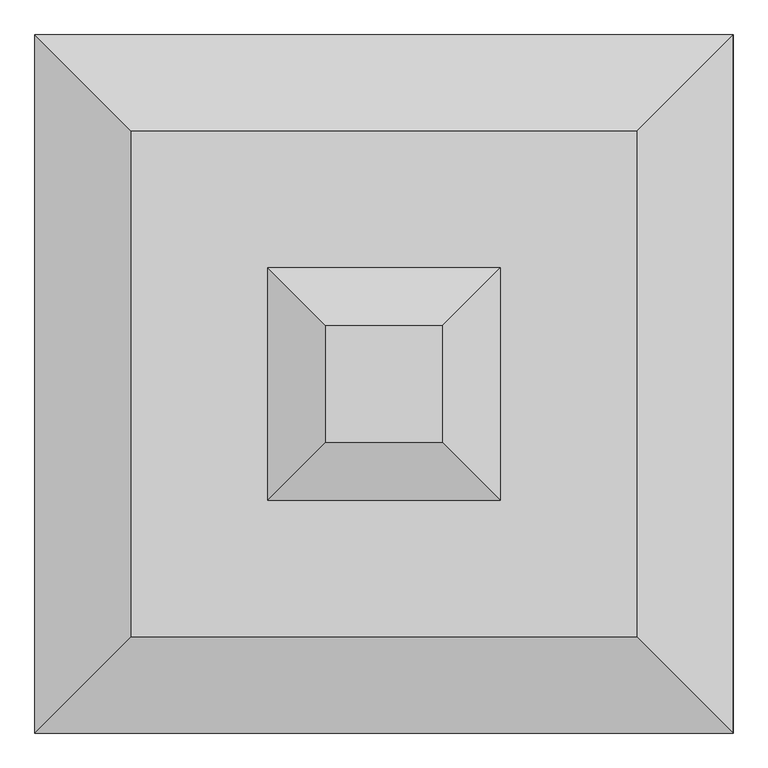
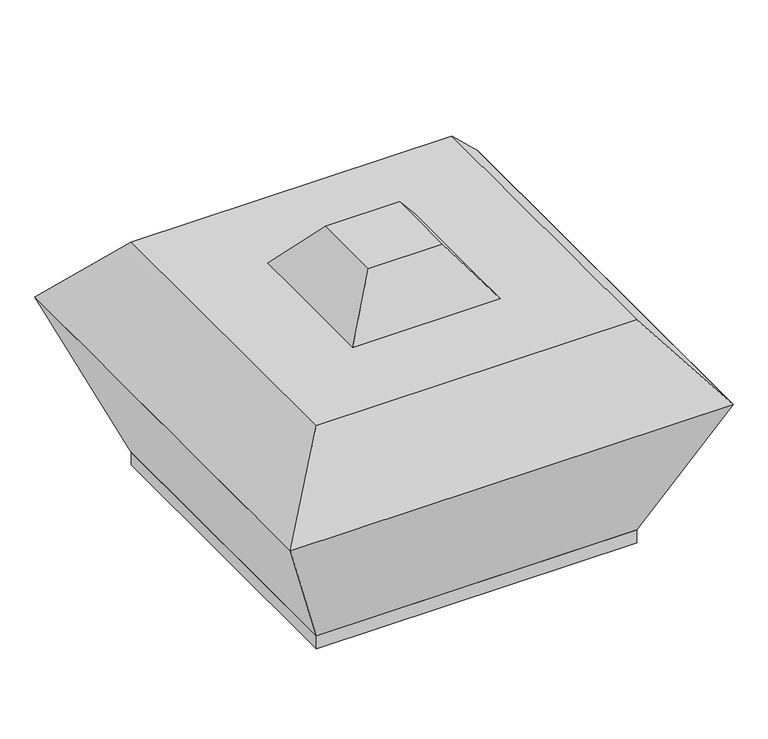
"""IFC4 building model written with IfcOpenShell, lengths in millimetres: proxy geometry."""

import ifcopenshell
import ifcopenshell.guid

model = None  # the IFC model being written
_history = None  # IfcOwnerHistory: only IFC2X3 demands one
_inside = {}  # id of a spatial element -> (the spatial element, [elements in it])
_under = {}  # id of a project, library or spatial element -> (it, [spatial elements below it])
_declared = {}  # id of a project -> (the project, [libraries it declares])
_typed = {}  # id of a type object -> (the type object, [elements of that type])
_made_of = {}  # id of a material, layer set ... -> (it, [elements and type objects made of it])


def new_model(schema):
    """Start an empty IFC model of exactly this schema.

    Asked for "IFC4X3", IfcOpenShell would pick the latest addendum, in which some entities
    have other attributes; the version numbers below select the first issue.
    IFC2X3 requires an IfcOwnerHistory on every rooted entity: one is made here for all.
    """
    global model, _history
    if schema == "IFC4X3":
        model = ifcopenshell.file(schema_version=(4, 3, 0, 0))
    else:
        model = ifcopenshell.file(schema=schema)
    _inside.clear()
    _under.clear()
    _declared.clear()
    _typed.clear()
    _made_of.clear()
    _history = None
    if model.schema == "IFC2X3":
        org = make("IfcOrganization", Name="unknown")
        user = make(
            "IfcPersonAndOrganization",
            ThePerson=make("IfcPerson", FamilyName="unknown"),
            TheOrganization=org,
        )
        app = make(
            "IfcApplication",
            ApplicationDeveloper=org,
            Version="unknown",
            ApplicationFullName="unknown",
            ApplicationIdentifier="unknown",
        )
        _history = make(
            "IfcOwnerHistory",
            OwningUser=user,
            OwningApplication=app,
            ChangeAction="ADDED",
            CreationDate=0,
        )
    return model


def make(cls, **values):
    """One entity of the class cls with the attributes given. An attribute that is None is left unset."""
    return model.create_entity(
        cls, **{name: value for name, value in values.items() if value is not None}
    )


def rooted(cls, **values):
    """An entity with a GlobalId (a new one), such as an element, a storey or a relation."""
    return make(cls, GlobalId=ifcopenshell.guid.new(), OwnerHistory=_history, **values)


def si_unit(unit_type, name, prefix=None):
    """IfcSIUnit, for example si_unit("LENGTHUNIT", "METRE", prefix="MILLI")."""
    return make("IfcSIUnit", UnitType=unit_type, Prefix=prefix, Name=name)


def assignment(units):
    """IfcUnitAssignment: the units of a project."""
    return None if units is None else make("IfcUnitAssignment", Units=units)


def point(xyz):
    """IfcCartesianPoint."""
    return None if xyz is None else make("IfcCartesianPoint", Coordinates=xyz)


def direction(xyz):
    """IfcDirection."""
    return None if xyz is None else make("IfcDirection", DirectionRatios=xyz)


def frame(location, z_axis=None, x_axis=None):
    """IfcAxis2Placement3D, a coordinate frame: its origin and axes. An axis left out is left unset."""
    return make(
        "IfcAxis2Placement3D",
        Location=point(location),
        Axis=direction(z_axis),
        RefDirection=direction(x_axis),
    )


def origin():
    """The frame at (0, 0, 0) with its axes left unset."""
    return frame((0.0, 0.0, 0.0))


def origin_with_axes():
    """The frame at (0, 0, 0) with the z axis (0, 0, 1) and the x axis (1, 0, 0) written out."""
    return frame((0.0, 0.0, 0.0), z_axis=(0.0, 0.0, 1.0), x_axis=(1.0, 0.0, 0.0))


def place(relative_to, where):
    """IfcLocalPlacement: puts the frame where relative to a parent placement (None: the world)."""
    return make(
        "IfcLocalPlacement", PlacementRelTo=relative_to, RelativePlacement=where
    )


def context(
    kind, dimensions, precision=None, world=None, true_north=None, identifier=None
):
    """IfcGeometricRepresentationContext, for example the 3D "Model" context."""
    return make(
        "IfcGeometricRepresentationContext",
        ContextIdentifier=identifier,
        ContextType=kind,
        CoordinateSpaceDimension=dimensions,
        Precision=precision,
        WorldCoordinateSystem=world,
        TrueNorth=true_north,
    )


def project(units=None, contexts=None):
    """IfcProject with its units and contexts."""
    return rooted(
        "IfcProject",
        Name="project",
        RepresentationContexts=contexts,
        UnitsInContext=assignment(units),
    )


def spatial(cls, under=None, at=None, **own):
    """A site, building, storey or space (cls), placed at a placement, below another one or the project."""
    s = rooted(cls, ObjectPlacement=at, **own)
    if under is not None:
        _under.setdefault(under.id(), (under, []))[1].append(s)
    return s


def polyline(points):
    """IfcPolyline through the points."""
    return make("IfcPolyline", Points=[point(p) for p in points])


def outline(outer, holes=None, kind="AREA"):
    """IfcArbitraryClosedProfileDef: a profile drawn as a closed curve; with holes, ...WithVoids."""
    if holes is None:
        return make("IfcArbitraryClosedProfileDef", ProfileType=kind, OuterCurve=outer)
    return make(
        "IfcArbitraryProfileDefWithVoids",
        ProfileType=kind,
        OuterCurve=outer,
        InnerCurves=holes,
    )


def extrude(swept, where, along, depth):
    """IfcExtrudedAreaSolid: the profile swept, set in the frame where, extruded along a direction by depth."""
    return make(
        "IfcExtrudedAreaSolid",
        SweptArea=swept,
        Position=where,
        ExtrudedDirection=direction(along),
        Depth=depth,
    )


def faces_of(points, faces, orient=None, outer=None):
    """IfcFace entities. A face is a list of loops; a loop is a list of indices into points, from 0.

    orient and outer hold one flag for each loop. By default every Orientation is true, the
    first loop of a face is its IfcFaceOuterBound and the others are IfcFaceBound.
    """
    made = []
    for i, loops in enumerate(faces):
        bounds = []
        for j, loop in enumerate(loops):
            is_outer = j == 0 if outer is None else outer[i][j]
            bounds.append(
                make(
                    "IfcFaceOuterBound" if is_outer else "IfcFaceBound",
                    Bound=make("IfcPolyLoop", Polygon=[points[k] for k in loop]),
                    Orientation=True if orient is None else orient[i][j],
                )
            )
        made.append(make("IfcFace", Bounds=bounds))
    return made


def faceted_brep(points, faces, orient=None, outer=None, voids=None):
    """IfcFacetedBrep: a solid bounded by flat faces; with voids (closed shells), ...WithVoids."""
    shared = [point(p) for p in points]
    hull = make("IfcClosedShell", CfsFaces=faces_of(shared, faces, orient, outer))
    if voids is None:
        return make("IfcFacetedBrep", Outer=hull)
    return make(
        "IfcFacetedBrepWithVoids",
        Outer=hull,
        Voids=[
            make(cls, CfsFaces=faces_of(shared, fs, o, b)) for cls, fs, o, b in voids
        ],
    )


def shape(context_of_items, identifier, shape_type, items):
    """IfcShapeRepresentation: the items that make up one representation, for example the "Body"."""
    return make(
        "IfcShapeRepresentation",
        ContextOfItems=context_of_items,
        RepresentationIdentifier=identifier,
        RepresentationType=shape_type,
        Items=items,
    )


def source(mapping_origin, context_of_items, identifier, shape_type, items):
    """IfcRepresentationMap: a shape defined once, which mapped items show again and again."""
    return make(
        "IfcRepresentationMap",
        MappingOrigin=mapping_origin,
        MappedRepresentation=shape(context_of_items, identifier, shape_type, items),
    )


def transform(
    local_origin,
    x_axis=None,
    y_axis=None,
    z_axis=None,
    scale=None,
    scale2=None,
    scale3=None,
    uniform=True,
):
    """IfcCartesianTransformationOperator3D, or its non-uniform kind. x_axis, y_axis, z_axis: its Axis1, 2, 3."""
    if uniform:
        return make(
            "IfcCartesianTransformationOperator3D",
            Axis1=direction(x_axis),
            Axis2=direction(y_axis),
            LocalOrigin=point(local_origin),
            Scale=scale,
            Axis3=direction(z_axis),
        )
    return make(
        "IfcCartesianTransformationOperator3DnonUniform",
        Axis1=direction(x_axis),
        Axis2=direction(y_axis),
        LocalOrigin=point(local_origin),
        Scale=scale,
        Axis3=direction(z_axis),
        Scale2=scale2,
        Scale3=scale3,
    )


def mapped(mapping_source, mapping_target):
    """IfcMappedItem: shows the shape of a source again, moved by a transform."""
    return make(
        "IfcMappedItem", MappingSource=mapping_source, MappingTarget=mapping_target
    )


def made_of(thing, what):
    """Note that an element or type object is made of a material, layer set ...; save() writes the relation."""
    if what is not None:
        _made_of.setdefault(what.id(), (what, []))[1].append(thing)
    return thing


def element(
    cls,
    number,
    at=None,
    inside=None,
    cuts=None,
    type_object=None,
    material=None,
    context=None,
    identifier="Body",
    shape_type=None,
    held_by="IfcProductDefinitionShape",
    body=None,
    shapes=None,
    **own,
):
    """One element of the class cls, such as IfcWall. Its Tag is "e" and its number.

    at: its placement. inside: the storey or other place that contains it. cuts: it is an
    opening in that element (IfcRelVoidsElement). A single representation is given by context,
    identifier, shape_type and body (its items); several are given by shapes. held_by: the class
    of the entity that holds the representations. save() writes the other relations.
    """
    e = rooted(cls, Tag="e%d" % number, ObjectPlacement=at, **own)
    if body is not None:
        shapes = [shape(context, identifier, shape_type, body)]
    if shapes is not None:
        e.Representation = make(held_by, Representations=shapes)
    if inside is not None:
        _inside.setdefault(inside.id(), (inside, []))[1].append(e)
    if cuts is not None:
        rooted(
            "IfcRelVoidsElement", RelatingBuildingElement=cuts, RelatedOpeningElement=e
        )
    if type_object is not None:
        _typed.setdefault(type_object.id(), (type_object, []))[1].append(e)
    return made_of(e, material)


def aggregate(whole, parts):
    """IfcRelAggregates: a whole, such as a stair, and the parts it consists of."""
    return rooted("IfcRelAggregates", RelatingObject=whole, RelatedObjects=parts)


def save(model, path):
    """Write the relations noted so far, then the file.

    IfcRelAggregates (storeys below a building ...), IfcRelContainedInSpatialStructure (elements
    in a storey), IfcRelDefinesByType, IfcRelAssociatesMaterial and IfcRelDeclares: one each for
    every whole, place, type object, material and project.
    """
    for whole, parts in _under.values():
        aggregate(whole, parts)
    for where, things in _inside.values():
        rooted(
            "IfcRelContainedInSpatialStructure",
            RelatedElements=things,
            RelatingStructure=where,
        )
    for kind, things in _typed.values():
        rooted("IfcRelDefinesByType", RelatedObjects=things, RelatingType=kind)
    for what, things in _made_of.values():
        rooted("IfcRelAssociatesMaterial", RelatedObjects=things, RelatingMaterial=what)
    for by, libraries in _declared.values():
        rooted("IfcRelDeclares", RelatingContext=by, RelatedDefinitions=libraries)
    model.write(path)


def mechanical_equipment_a233ed20(model_context):
    return source(origin(), model_context, "Body", "SolidModel", [
        faceted_brep([(-108.25, -108.25, 835.0), (108.25, -108.25, 835.0), (108.25, 108.25, 835.0), (-108.25, 108.25, 835.0), (-216.5, -216.5, 693.0), (-216.5, 216.5, 693.0), (216.5, 216.5, 693.0), (216.5, -216.5, 693.0)], [[[0, 1, 2, 3]], [[4, 5, 6, 7]], [[4, 7, 1, 0]], [[7, 6, 2, 1]], [[6, 5, 3, 2]], [[5, 4, 0, 3]]]),
        faceted_brep([(-649.5, -649.5, 475.3333333), (-649.5, 649.5, 475.3333333), (649.5, 649.5, 475.3333333), (649.5, -649.5, 475.3333333), (-470.0, -470.0, 693.0), (470.0, -470.0, 693.0), (470.0, 470.0, 693.0), (-470.0, 470.0, 693.0)], [[[0, 1, 2, 3]], [[4, 5, 6, 7]], [[5, 4, 0, 3]], [[6, 5, 3, 2]], [[7, 6, 2, 1]], [[4, 7, 1, 0]]]),
        faceted_brep([(649.5, 649.5, 475.3333333), (-649.5, 649.5, 475.3333333), (-649.5, -649.5, 475.3333333), (649.5, -649.5, 475.3333333), (470.0, 470.0, 40.0), (470.0, -470.0, 40.0), (-470.0, -470.0, 40.0), (-470.0, 470.0, 40.0)], [[[0, 1, 2, 3]], [[4, 5, 6, 7]], [[4, 7, 1, 0]], [[7, 6, 2, 1]], [[6, 5, 3, 2]], [[5, 4, 0, 3]]]),
        extrude(outline(polyline([(-470.0, -470.0), (-470.0, 470.0), (470.0, 470.0), (470.0, -470.0), (-470.0, -470.0)])), origin_with_axes(), (0.0, 0.0, 1.0), 40.0),
    ])


if __name__ == "__main__":
    model = new_model("IFC4")
    model_context = context("Model", 3, world=origin())
    ifc_project = project(units=[si_unit("LENGTHUNIT", "METRE", prefix="MILLI")], contexts=[model_context])
    site = spatial("IfcSite", under=ifc_project)
    building = spatial("IfcBuilding", under=site)
    placement = place(None, origin())
    mechanical_equipment_shape = mechanical_equipment_a233ed20(model_context)
    element("IfcBuildingElementProxy", 1, Name="Mechanical Equipment", at=placement, inside=building, context=model_context, shape_type="MappedRepresentation", body=[
        mapped(mechanical_equipment_shape, transform((0.0, 0.0, 0.0), x_axis=(1.0, 0.0, 0.0), y_axis=(0.0, 1.0, 0.0), z_axis=(0.0, 0.0, 1.0))),
    ])
    save(model, "model.ifc")
